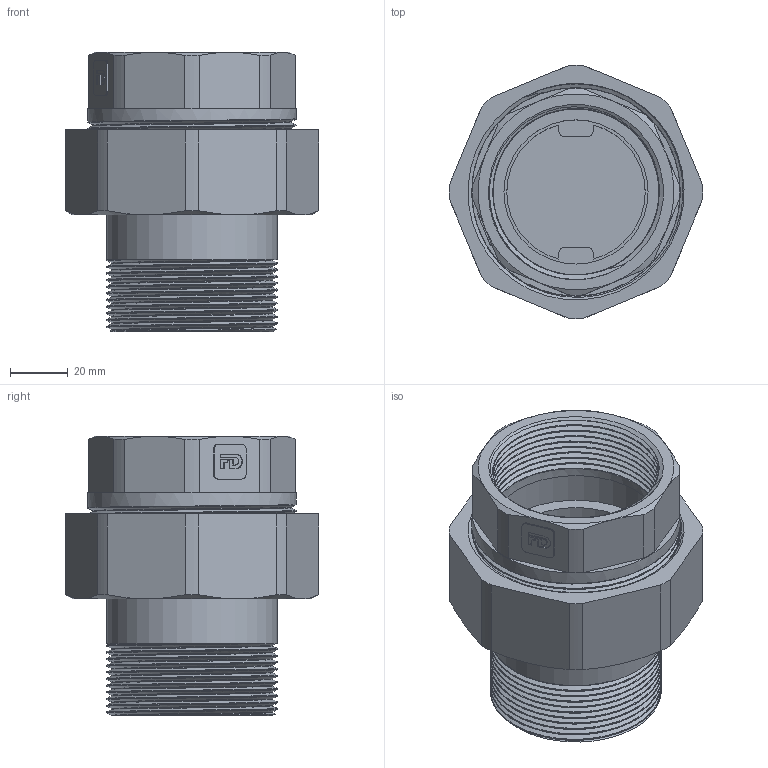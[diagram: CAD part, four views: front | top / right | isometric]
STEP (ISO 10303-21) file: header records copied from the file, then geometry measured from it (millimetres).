
FILE_DESCRIPTION(/* description */ (''),/* implementation_level */ '2;1');
FILE_NAME(/* name */ 'C:\Users\Doom\Desktop\Фадотех\Резьба\SN06 18.03.2020\SN06 18.03.2020.stp',/* time_stamp */ '2022-01-18T23:35:08+02:00',/* author */ ('Doom'),/* organization */ (''),/* preprocessor_version */ 'ST-DEVELOPER v18',/* originating_system */ 'Autodesk Inventor 2020',/* authorisation */ '');
FILE_SCHEMA (('AUTOMOTIVE_DESIGN { 1 0 10303 214 3 1 1 }'));
Length unit declared in the file: millimetre
Products named in the file (4): SC04 18.03.2020; 2060191D; 2060192D; 2060193D
Assembly tree (3 placements, depth 2):
  SC04 18.03.2020
    2060191D
    2060192D
    2060193D
Bounding box: 87.99 x 87.99 x 96.9 mm (x, y, z)
Volume: 154712.6 mm3; surface area: 89370.7 mm2
Topology: 4 solids, 4 shells, 189 faces, 510 edges, 341 vertices
Faces by surface type: cylinder 72, plane 63, bspline 32, cone 22
Full cylindrical faces by diameter (mm): 50 x2, 55.876 x2, 57.5 x1, 57.576 x10, 59 x1, 59.3 x10, 61 x2, 71 x1, 71.756 x9, 72.26 x7
Entity records: 25952 total; most frequent: CARTESIAN_POINT 21406, ORIENTED_EDGE 1020, DIRECTION 780, EDGE_CURVE 510, VERTEX_POINT 341, AXIS2_PLACEMENT_3D 293, EDGE_LOOP 209, LINE 194
